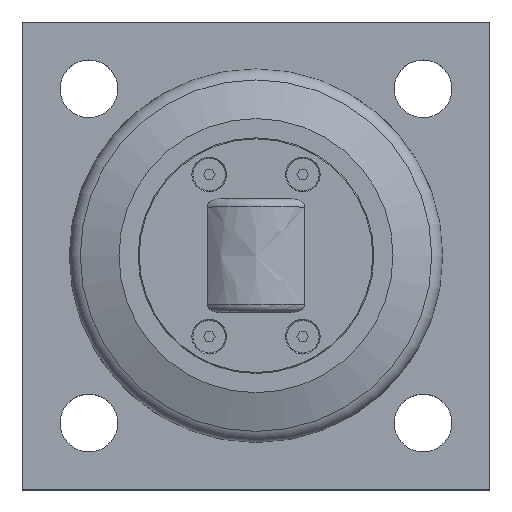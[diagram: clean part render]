
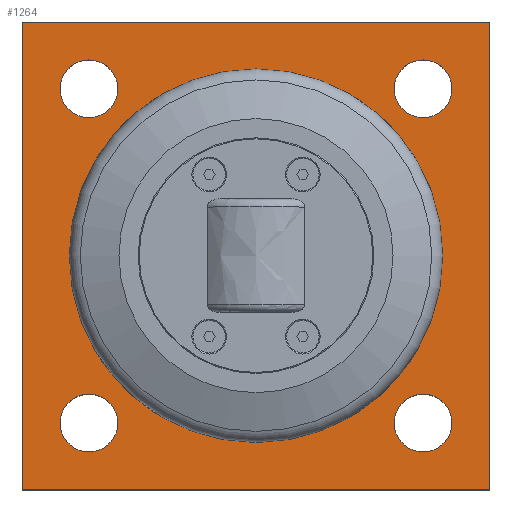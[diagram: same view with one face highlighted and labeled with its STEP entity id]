
A CAD part, top view. The second image highlights one B-rep face of the part: STEP entity #1264.
In plain terms, the highlighted planar face has unit normal (0, 0, 1).
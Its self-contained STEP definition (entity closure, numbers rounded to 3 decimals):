
#60=FACE_BOUND('',#277,.T.);
#61=FACE_BOUND('',#278,.T.);
#62=FACE_BOUND('',#279,.T.);
#63=FACE_BOUND('',#280,.T.);
#64=FACE_BOUND('',#281,.T.);
#103=CIRCLE('',#1384,8.647);
#104=CIRCLE('',#1385,8.647);
#106=CIRCLE('',#1388,8.647);
#107=CIRCLE('',#1389,8.647);
#109=CIRCLE('',#1392,8.647);
#110=CIRCLE('',#1393,8.647);
#112=CIRCLE('',#1396,8.647);
#113=CIRCLE('',#1397,8.647);
#115=CIRCLE('',#1401,35.);
#193=FACE_OUTER_BOUND('',#276,.T.);
#276=EDGE_LOOP('',(#1100,#1101,#1102,#1103));
#277=EDGE_LOOP('',(#1104));
#278=EDGE_LOOP('',(#1105,#1106));
#279=EDGE_LOOP('',(#1107,#1108));
#280=EDGE_LOOP('',(#1109,#1110));
#281=EDGE_LOOP('',(#1111,#1112));
#378=LINE('',#2126,#483);
#382=LINE('',#2134,#487);
#385=LINE('',#2140,#490);
#388=LINE('',#2145,#493);
#483=VECTOR('',#1687,10.);
#487=VECTOR('',#1693,10.);
#490=VECTOR('',#1698,10.);
#493=VECTOR('',#1703,10.);
#591=VERTEX_POINT('',#2124);
#592=VERTEX_POINT('',#2125);
#595=VERTEX_POINT('',#2133);
#597=VERTEX_POINT('',#2139);
#599=VERTEX_POINT('',#2148);
#600=VERTEX_POINT('',#2149);
#602=VERTEX_POINT('',#2156);
#603=VERTEX_POINT('',#2157);
#605=VERTEX_POINT('',#2164);
#606=VERTEX_POINT('',#2165);
#608=VERTEX_POINT('',#2172);
#609=VERTEX_POINT('',#2173);
#611=VERTEX_POINT('',#2181);
#754=EDGE_CURVE('',#591,#592,#378,.T.);
#758=EDGE_CURVE('',#595,#591,#382,.T.);
#761=EDGE_CURVE('',#597,#595,#385,.T.);
#764=EDGE_CURVE('',#592,#597,#388,.T.);
#766=EDGE_CURVE('',#599,#600,#103,.T.);
#767=EDGE_CURVE('',#600,#599,#104,.T.);
#770=EDGE_CURVE('',#602,#603,#106,.T.);
#771=EDGE_CURVE('',#603,#602,#107,.T.);
#774=EDGE_CURVE('',#605,#606,#109,.T.);
#775=EDGE_CURVE('',#606,#605,#110,.T.);
#778=EDGE_CURVE('',#608,#609,#112,.T.);
#779=EDGE_CURVE('',#609,#608,#113,.T.);
#782=EDGE_CURVE('',#611,#611,#115,.T.);
#1100=ORIENTED_EDGE('',*,*,#764,.F.);
#1101=ORIENTED_EDGE('',*,*,#754,.F.);
#1102=ORIENTED_EDGE('',*,*,#758,.F.);
#1103=ORIENTED_EDGE('',*,*,#761,.F.);
#1104=ORIENTED_EDGE('',*,*,#782,.T.);
#1105=ORIENTED_EDGE('',*,*,#766,.T.);
#1106=ORIENTED_EDGE('',*,*,#767,.T.);
#1107=ORIENTED_EDGE('',*,*,#770,.T.);
#1108=ORIENTED_EDGE('',*,*,#771,.T.);
#1109=ORIENTED_EDGE('',*,*,#774,.T.);
#1110=ORIENTED_EDGE('',*,*,#775,.T.);
#1111=ORIENTED_EDGE('',*,*,#778,.T.);
#1112=ORIENTED_EDGE('',*,*,#779,.T.);
#1202=PLANE('',#1400);
#1264=ADVANCED_FACE('',(#193,#60,#61,#62,#63,#64),#1202,.T.);
#1384=AXIS2_PLACEMENT_3D('',#2150,#1707,#1708);
#1385=AXIS2_PLACEMENT_3D('',#2151,#1709,#1710);
#1388=AXIS2_PLACEMENT_3D('',#2158,#1716,#1717);
#1389=AXIS2_PLACEMENT_3D('',#2159,#1718,#1719);
#1392=AXIS2_PLACEMENT_3D('',#2166,#1725,#1726);
#1393=AXIS2_PLACEMENT_3D('',#2167,#1727,#1728);
#1396=AXIS2_PLACEMENT_3D('',#2174,#1734,#1735);
#1397=AXIS2_PLACEMENT_3D('',#2175,#1736,#1737);
#1400=AXIS2_PLACEMENT_3D('',#2180,#1743,#1744);
#1401=AXIS2_PLACEMENT_3D('',#2182,#1745,#1746);
#1687=DIRECTION('',(-1.,0.,0.));
#1693=DIRECTION('',(0.,-1.,0.));
#1698=DIRECTION('',(1.,0.,0.));
#1703=DIRECTION('',(0.,1.,0.));
#1707=DIRECTION('center_axis',(0.,0.,-1.));
#1708=DIRECTION('ref_axis',(1.,0.,0.));
#1709=DIRECTION('center_axis',(0.,0.,-1.));
#1710=DIRECTION('ref_axis',(1.,0.,0.));
#1716=DIRECTION('center_axis',(0.,0.,-1.));
#1717=DIRECTION('ref_axis',(1.,0.,0.));
#1718=DIRECTION('center_axis',(0.,0.,-1.));
#1719=DIRECTION('ref_axis',(1.,0.,0.));
#1725=DIRECTION('center_axis',(0.,0.,-1.));
#1726=DIRECTION('ref_axis',(1.,0.,0.));
#1727=DIRECTION('center_axis',(0.,0.,-1.));
#1728=DIRECTION('ref_axis',(1.,0.,0.));
#1734=DIRECTION('center_axis',(0.,0.,-1.));
#1735=DIRECTION('ref_axis',(1.,0.,0.));
#1736=DIRECTION('center_axis',(0.,0.,-1.));
#1737=DIRECTION('ref_axis',(1.,0.,0.));
#1743=DIRECTION('center_axis',(0.,0.,1.));
#1744=DIRECTION('ref_axis',(1.,0.,0.));
#1745=DIRECTION('center_axis',(0.,0.,-1.));
#1746=DIRECTION('ref_axis',(0.,-1.,0.));
#2124=CARTESIAN_POINT('',(140.,0.,20.));
#2125=CARTESIAN_POINT('',(0.,0.,20.));
#2126=CARTESIAN_POINT('',(0.,0.,20.));
#2133=CARTESIAN_POINT('',(140.,140.,20.));
#2134=CARTESIAN_POINT('',(140.,0.,20.));
#2139=CARTESIAN_POINT('',(0.,140.,20.));
#2140=CARTESIAN_POINT('',(140.,140.,20.));
#2145=CARTESIAN_POINT('',(0.,140.,20.));
#2148=CARTESIAN_POINT('',(28.647,120.,20.));
#2149=CARTESIAN_POINT('',(11.353,120.,20.));
#2150=CARTESIAN_POINT('Origin',(20.,120.,20.));
#2151=CARTESIAN_POINT('Origin',(20.,120.,20.));
#2156=CARTESIAN_POINT('',(128.647,120.,20.));
#2157=CARTESIAN_POINT('',(111.353,120.,20.));
#2158=CARTESIAN_POINT('Origin',(120.,120.,20.));
#2159=CARTESIAN_POINT('Origin',(120.,120.,20.));
#2164=CARTESIAN_POINT('',(128.647,20.,20.));
#2165=CARTESIAN_POINT('',(111.353,20.,20.));
#2166=CARTESIAN_POINT('Origin',(120.,20.,20.));
#2167=CARTESIAN_POINT('Origin',(120.,20.,20.));
#2172=CARTESIAN_POINT('',(28.647,20.,20.));
#2173=CARTESIAN_POINT('',(11.353,20.,20.));
#2174=CARTESIAN_POINT('Origin',(20.,20.,20.));
#2175=CARTESIAN_POINT('Origin',(20.,20.,20.));
#2180=CARTESIAN_POINT('Origin',(70.,70.,20.));
#2181=CARTESIAN_POINT('',(70.,105.,20.));
#2182=CARTESIAN_POINT('Origin',(70.,70.,20.));
